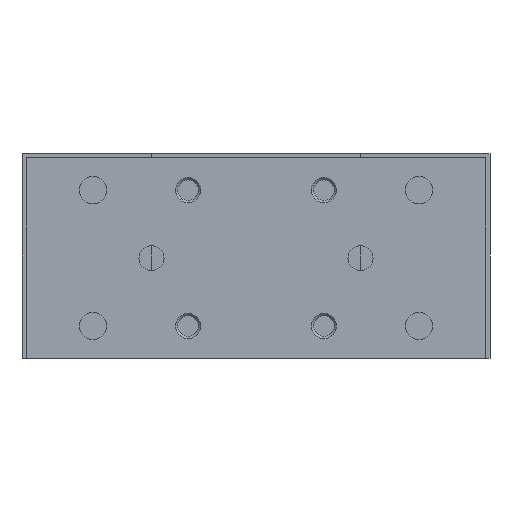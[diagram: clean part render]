
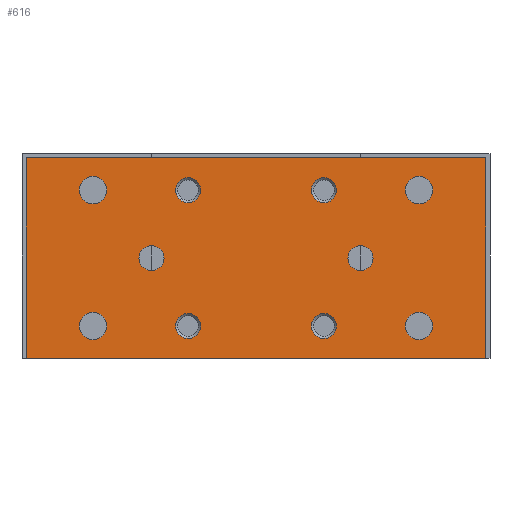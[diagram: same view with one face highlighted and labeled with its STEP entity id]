
A CAD part, left-side view. The second image highlights one B-rep face of the part: STEP entity #616.
In plain terms, the highlighted planar face has unit normal (-1, 0, 0).
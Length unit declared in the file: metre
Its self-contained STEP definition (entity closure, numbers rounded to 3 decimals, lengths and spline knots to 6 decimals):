
#616 = ADVANCED_FACE( '', ( #1470, #1471, #1472, #1473, #1474, #1475, #1476, #1477, #1478, #1479, #1480 ), #1481, .F. );
#1470 = FACE_BOUND( '', #2538, .T. );
#1471 = FACE_BOUND( '', #2539, .T. );
#1472 = FACE_BOUND( '', #2540, .T. );
#1473 = FACE_BOUND( '', #2541, .T. );
#1474 = FACE_BOUND( '', #2542, .T. );
#1475 = FACE_BOUND( '', #2543, .T. );
#1476 = FACE_BOUND( '', #2544, .T. );
#1477 = FACE_BOUND( '', #2545, .T. );
#1478 = FACE_BOUND( '', #2546, .T. );
#1479 = FACE_BOUND( '', #2547, .T. );
#1480 = FACE_OUTER_BOUND( '', #2548, .T. );
#1481 = PLANE( '', #2549 );
#2538 = EDGE_LOOP( '', ( #4050 ) );
#2539 = EDGE_LOOP( '', ( #4051 ) );
#2540 = EDGE_LOOP( '', ( #4052 ) );
#2541 = EDGE_LOOP( '', ( #4053 ) );
#2542 = EDGE_LOOP( '', ( #4054 ) );
#2543 = EDGE_LOOP( '', ( #4055 ) );
#2544 = EDGE_LOOP( '', ( #4056 ) );
#2545 = EDGE_LOOP( '', ( #4057 ) );
#2546 = EDGE_LOOP( '', ( #4058 ) );
#2547 = EDGE_LOOP( '', ( #4059 ) );
#2548 = EDGE_LOOP( '', ( #4060, #4061, #4062, #4063 ) );
#2549 = AXIS2_PLACEMENT_3D( '', #4064, #4065, #4066 );
#4050 = ORIENTED_EDGE( '', *, *, #5319, .T. );
#4051 = ORIENTED_EDGE( '', *, *, #5320, .T. );
#4052 = ORIENTED_EDGE( '', *, *, #4870, .T. );
#4053 = ORIENTED_EDGE( '', *, *, #4876, .T. );
#4054 = ORIENTED_EDGE( '', *, *, #5277, .F. );
#4055 = ORIENTED_EDGE( '', *, *, #5204, .T. );
#4056 = ORIENTED_EDGE( '', *, *, #5174, .T. );
#4057 = ORIENTED_EDGE( '', *, *, #5321, .F. );
#4058 = ORIENTED_EDGE( '', *, *, #5322, .F. );
#4059 = ORIENTED_EDGE( '', *, *, #5323, .T. );
#4060 = ORIENTED_EDGE( '', *, *, #5324, .T. );
#4061 = ORIENTED_EDGE( '', *, *, #5208, .T. );
#4062 = ORIENTED_EDGE( '', *, *, #5325, .T. );
#4063 = ORIENTED_EDGE( '', *, *, #5326, .T. );
#4064 = CARTESIAN_POINT( '', ( -0.07925, -0.055, -0.049 ) );
#4065 = DIRECTION( '', ( 1., 0., 0. ) );
#4066 = DIRECTION( '', ( 0., 1., 0. ) );
#4870 = EDGE_CURVE( '', #5556, #5556, #5557, .T. );
#4876 = EDGE_CURVE( '', #5566, #5566, #5567, .T. );
#5174 = EDGE_CURVE( '', #6042, #6042, #6043, .T. );
#5204 = EDGE_CURVE( '', #6085, #6085, #6086, .T. );
#5208 = EDGE_CURVE( '', #6093, #6091, #6094, .T. );
#5277 = EDGE_CURVE( '', #6187, #6187, #6188, .T. );
#5319 = EDGE_CURVE( '', #6250, #6250, #6251, .T. );
#5320 = EDGE_CURVE( '', #6252, #6252, #6253, .T. );
#5321 = EDGE_CURVE( '', #6254, #6254, #6255, .T. );
#5322 = EDGE_CURVE( '', #6256, #6256, #6257, .T. );
#5323 = EDGE_CURVE( '', #6258, #6258, #6259, .T. );
#5324 = EDGE_CURVE( '', #6260, #6093, #6261, .T. );
#5325 = EDGE_CURVE( '', #6091, #6262, #6263, .T. );
#5326 = EDGE_CURVE( '', #6262, #6260, #6264, .T. );
#5556 = VERTEX_POINT( '', #6545 );
#5557 = CIRCLE( '', #6546, 0.0033 );
#5566 = VERTEX_POINT( '', #6555 );
#5567 = CIRCLE( '', #6556, 0.0033 );
#6042 = VERTEX_POINT( '', #7218 );
#6043 = CIRCLE( '', #7219, 0.003 );
#6085 = VERTEX_POINT( '', #7303 );
#6086 = CIRCLE( '', #7304, 0.003 );
#6091 = VERTEX_POINT( '', #7310 );
#6093 = VERTEX_POINT( '', #7313 );
#6094 = LINE( '', #7314, #7315 );
#6187 = VERTEX_POINT( '', #7418 );
#6188 = CIRCLE( '', #7419, 0.003 );
#6250 = VERTEX_POINT( '', #7525 );
#6251 = CIRCLE( '', #7526, 0.0033 );
#6252 = VERTEX_POINT( '', #7527 );
#6253 = CIRCLE( '', #7528, 0.0033 );
#6254 = VERTEX_POINT( '', #7529 );
#6255 = CIRCLE( '', #7530, 0.003 );
#6256 = VERTEX_POINT( '', #7531 );
#6257 = CIRCLE( '', #7532, 0.003 );
#6258 = VERTEX_POINT( '', #7533 );
#6259 = CIRCLE( '', #7534, 0.003 );
#6260 = VERTEX_POINT( '', #7535 );
#6261 = LINE( '', #7536, #7537 );
#6262 = VERTEX_POINT( '', #7538 );
#6263 = LINE( '', #7539, #7540 );
#6264 = LINE( '', #7541, #7542 );
#6545 = CARTESIAN_POINT( '', ( -0.07925, -0.0357, -0.00875 ) );
#6546 = AXIS2_PLACEMENT_3D( '', #7874, #7875, #7876 );
#6555 = CARTESIAN_POINT( '', ( -0.07925, 0.0423, -0.00875 ) );
#6556 = AXIS2_PLACEMENT_3D( '', #7886, #7887, #7888 );
#7218 = CARTESIAN_POINT( '', ( -0.07925, -0.01325, -0.04125 ) );
#7219 = AXIS2_PLACEMENT_3D( '', #8310, #8311, #8312 );
#7303 = CARTESIAN_POINT( '', ( -0.07925, 0.025, -0.022 ) );
#7304 = AXIS2_PLACEMENT_3D( '', #8340, #8341, #8342 );
#7310 = CARTESIAN_POINT( '', ( -0.07925, 0.055, -0.001 ) );
#7313 = CARTESIAN_POINT( '', ( -0.07925, -0.055, -0.001 ) );
#7314 = CARTESIAN_POINT( '', ( -0.07925, -0.055, -0.001 ) );
#7315 = VECTOR( '', #8345, 1. );
#7418 = CARTESIAN_POINT( '', ( -0.07925, -0.025, -0.022 ) );
#7419 = AXIS2_PLACEMENT_3D( '', #8428, #8429, #8430 );
#7525 = CARTESIAN_POINT( '', ( -0.07925, -0.0357, -0.04125 ) );
#7526 = AXIS2_PLACEMENT_3D( '', #8484, #8485, #8486 );
#7527 = CARTESIAN_POINT( '', ( -0.07925, 0.0423, -0.04125 ) );
#7528 = AXIS2_PLACEMENT_3D( '', #8487, #8488, #8489 );
#7529 = CARTESIAN_POINT( '', ( -0.07925, 0.01325, -0.04125 ) );
#7530 = AXIS2_PLACEMENT_3D( '', #8490, #8491, #8492 );
#7531 = CARTESIAN_POINT( '', ( -0.07925, -0.01325, -0.00875 ) );
#7532 = AXIS2_PLACEMENT_3D( '', #8493, #8494, #8495 );
#7533 = CARTESIAN_POINT( '', ( -0.07925, 0.01325, -0.00875 ) );
#7534 = AXIS2_PLACEMENT_3D( '', #8496, #8497, #8498 );
#7535 = CARTESIAN_POINT( '', ( -0.07925, -0.055, -0.049 ) );
#7536 = CARTESIAN_POINT( '', ( -0.07925, -0.055, -0.049 ) );
#7537 = VECTOR( '', #8499, 1. );
#7538 = CARTESIAN_POINT( '', ( -0.07925, 0.055, -0.049 ) );
#7539 = CARTESIAN_POINT( '', ( -0.07925, 0.055, -0.001 ) );
#7540 = VECTOR( '', #8500, 1. );
#7541 = CARTESIAN_POINT( '', ( -0.07925, 0.055, -0.049 ) );
#7542 = VECTOR( '', #8501, 1. );
#7874 = CARTESIAN_POINT( '', ( -0.07925, -0.039, -0.00875 ) );
#7875 = DIRECTION( '', ( 1., 0., 0. ) );
#7876 = DIRECTION( '', ( 0., 1., 0. ) );
#7886 = CARTESIAN_POINT( '', ( -0.07925, 0.039, -0.00875 ) );
#7887 = DIRECTION( '', ( 1., 0., 0. ) );
#7888 = DIRECTION( '', ( 0., 1., 0. ) );
#8310 = CARTESIAN_POINT( '', ( -0.07925, -0.01625, -0.04125 ) );
#8311 = DIRECTION( '', ( 1., 0., 0. ) );
#8312 = DIRECTION( '', ( 0., 1., 0. ) );
#8340 = CARTESIAN_POINT( '', ( -0.07925, 0.025, -0.025 ) );
#8341 = DIRECTION( '', ( 1., 0., 0. ) );
#8342 = DIRECTION( '', ( 0., 0., 1. ) );
#8345 = DIRECTION( '', ( 0., 1., 0. ) );
#8428 = CARTESIAN_POINT( '', ( -0.07925, -0.025, -0.025 ) );
#8429 = DIRECTION( '', ( -1., 0., 0. ) );
#8430 = DIRECTION( '', ( 0., 0., 1. ) );
#8484 = CARTESIAN_POINT( '', ( -0.07925, -0.039, -0.04125 ) );
#8485 = DIRECTION( '', ( 1., 0., 0. ) );
#8486 = DIRECTION( '', ( 0., 1., 0. ) );
#8487 = CARTESIAN_POINT( '', ( -0.07925, 0.039, -0.04125 ) );
#8488 = DIRECTION( '', ( 1., 0., 0. ) );
#8489 = DIRECTION( '', ( 0., 1., 0. ) );
#8490 = CARTESIAN_POINT( '', ( -0.07925, 0.01625, -0.04125 ) );
#8491 = DIRECTION( '', ( -1., 0., 0. ) );
#8492 = DIRECTION( '', ( 0., -1., 0. ) );
#8493 = CARTESIAN_POINT( '', ( -0.07925, -0.01625, -0.00875 ) );
#8494 = DIRECTION( '', ( -1., 0., 0. ) );
#8495 = DIRECTION( '', ( 0., 1., 0. ) );
#8496 = CARTESIAN_POINT( '', ( -0.07925, 0.01625, -0.00875 ) );
#8497 = DIRECTION( '', ( 1., 0., 0. ) );
#8498 = DIRECTION( '', ( 0., -1., 0. ) );
#8499 = DIRECTION( '', ( 0., 0., 1. ) );
#8500 = DIRECTION( '', ( 0., 0., -1. ) );
#8501 = DIRECTION( '', ( 0., -1., 0. ) );
